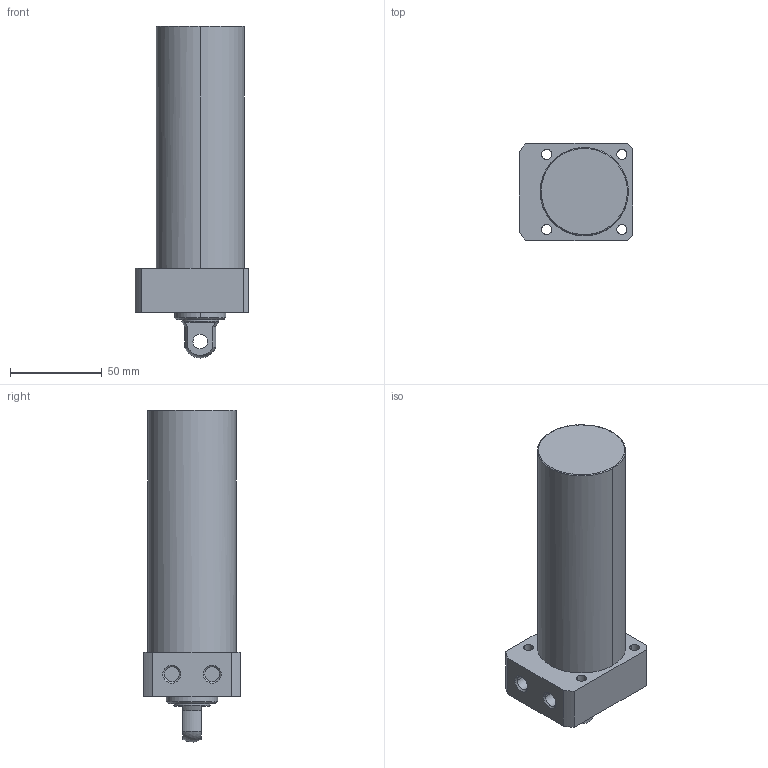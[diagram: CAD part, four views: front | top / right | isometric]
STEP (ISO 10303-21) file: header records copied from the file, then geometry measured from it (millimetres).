
FILE_DESCRIPTION((' '),'2;1');
FILE_NAME( 'TLLR-048CP-105.STEP.stp', '2025-10-24T16:34:40', (' '), ('--- Datakit www.datakit.com---'), ' Datakit CrossCadWare V2024.1 Dec 21 2023', 'Mastercam 2025', ' ');
FILE_SCHEMA(('AUTOMOTIVE_DESIGN { 1 0 10303 214 1 1 1 1 }'));
Length unit declared in the file: millimetre
Products named in the file (1): TLLR-048CP-105
Bounding box: 62 x 53 x 180.94 mm (x, y, z)
Volume: 318349.2 mm3; surface area: 35311.6 mm2
Topology: 1 solids, 1 shells, 57 faces, 164 edges, 116 vertices
Faces by surface type: cylinder 28, plane 18, cone 8, torus 2, sphere 1
Entity records: 2006 total; most frequent: DIRECTION 378, CARTESIAN_POINT 350, ORIENTED_EDGE 328, EDGE_CURVE 164, AXIS2_PLACEMENT_3D 160, VERTEX_POINT 116, CIRCLE 102, EDGE_LOOP 74
